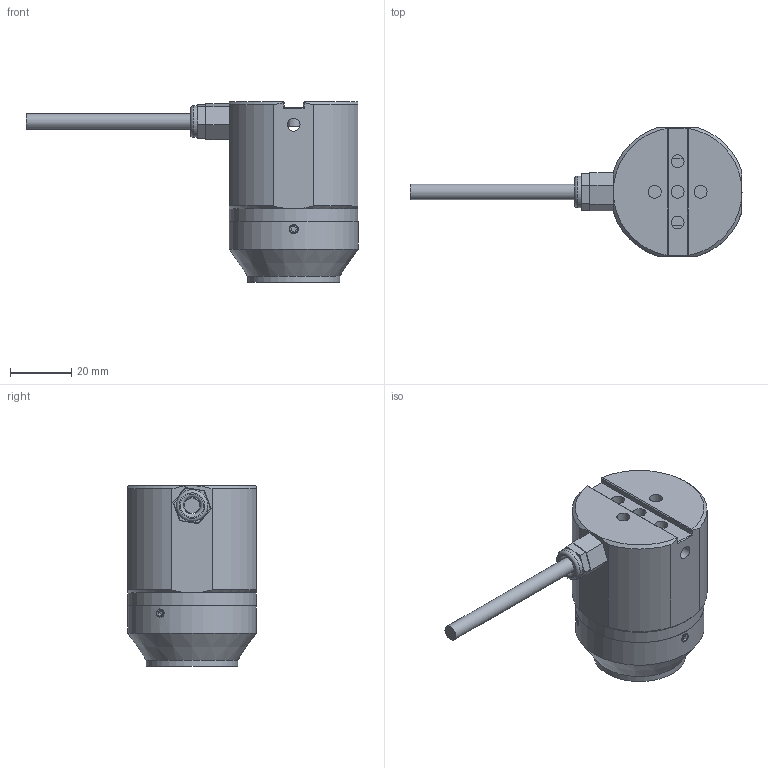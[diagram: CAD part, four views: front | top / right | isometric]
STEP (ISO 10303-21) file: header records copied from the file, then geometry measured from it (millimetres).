
FILE_DESCRIPTION (( 'STEP AP214' ), '1' );
FILE_NAME ('EFFI-SHARP-CPT-YY-ZZZ-M.STEP', '2022-04-22T14:14:41', ( '' ), ( '' ), 'SwSTEP 2.0', 'SolidWorks 2021', '' );
FILE_SCHEMA (( 'AUTOMOTIVE_DESIGN' ));
Length unit declared in the file: millimetre
Products named in the file (1): EFFI-SHARP-CPT-YY-ZZZ-M
Bounding box: 108.35 x 42.01 x 58.92 mm (x, y, z)
Surface area: 15694.2 mm2 (no closed solid volume)
Topology: 0 solids, 12 shells, 117 faces, 326 edges, 222 vertices
Faces by surface type: plane 65, cylinder 33, cone 13, bspline 4, torus 2
Full cylindrical faces by diameter (mm): 2.5 x1, 4.2 x8, 5 x1, 5.55 x1, 10.351 x1, 22 x1, 25.92 x1, 30 x1, 42 x2
Entity records: 5152 total; most frequent: CARTESIAN_POINT 998, DIRECTION 580, ORIENTED_EDGE 513, EDGE_CURVE 299, VERTEX_POINT 217, AXIS2_PLACEMENT_3D 217, EDGE_LOOP 162, LINE 146
